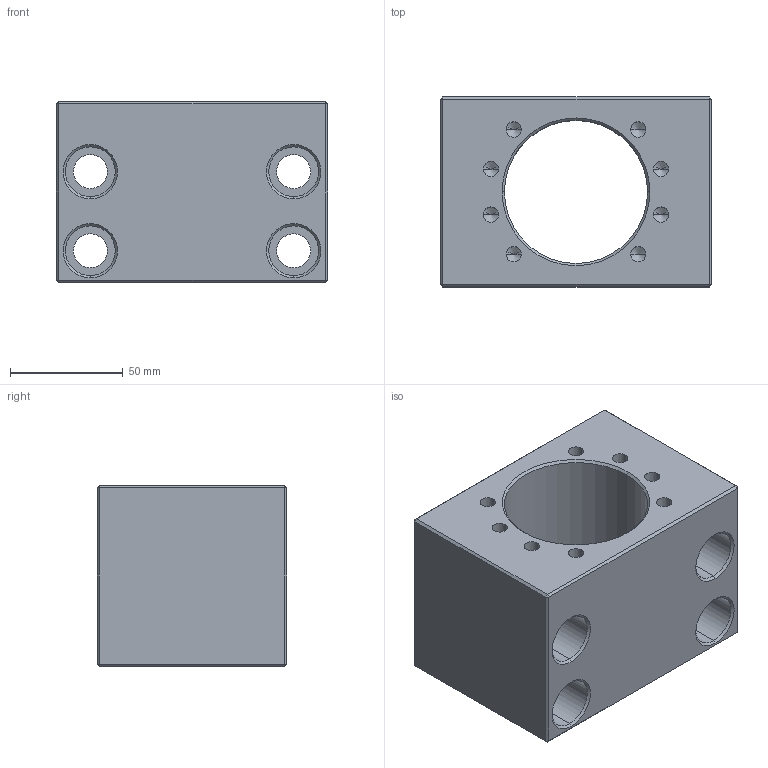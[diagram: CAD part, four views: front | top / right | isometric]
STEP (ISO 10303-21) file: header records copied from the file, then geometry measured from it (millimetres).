
FILE_DESCRIPTION (( 'STEP AP214' ), '1' );
FILE_NAME ('2.4029 Kuulamutterin kotelo MGD40.STEP', '2025-08-04T11:20:06', ( '' ), ( '' ), 'SwSTEP 2.0', 'SolidWorks 2024', '' );
FILE_SCHEMA (( 'AUTOMOTIVE_DESIGN' ));
Length unit declared in the file: millimetre
Products named in the file (1): 2.4029 Kuulamutterin kotelo MGD40
Bounding box: 120 x 84 x 80 mm (x, y, z)
Volume: 465595.7 mm3; surface area: 81915.8 mm2
Topology: 1 solids, 1 shells, 108 faces, 238 edges, 128 vertices
Faces by surface type: cylinder 42, cone 36, plane 30
Entity records: 2845 total; most frequent: DIRECTION 536, CARTESIAN_POINT 459, ORIENTED_EDGE 444, EDGE_CURVE 222, AXIS2_PLACEMENT_3D 205, EDGE_LOOP 130, VERTEX_POINT 128, VECTOR 126
